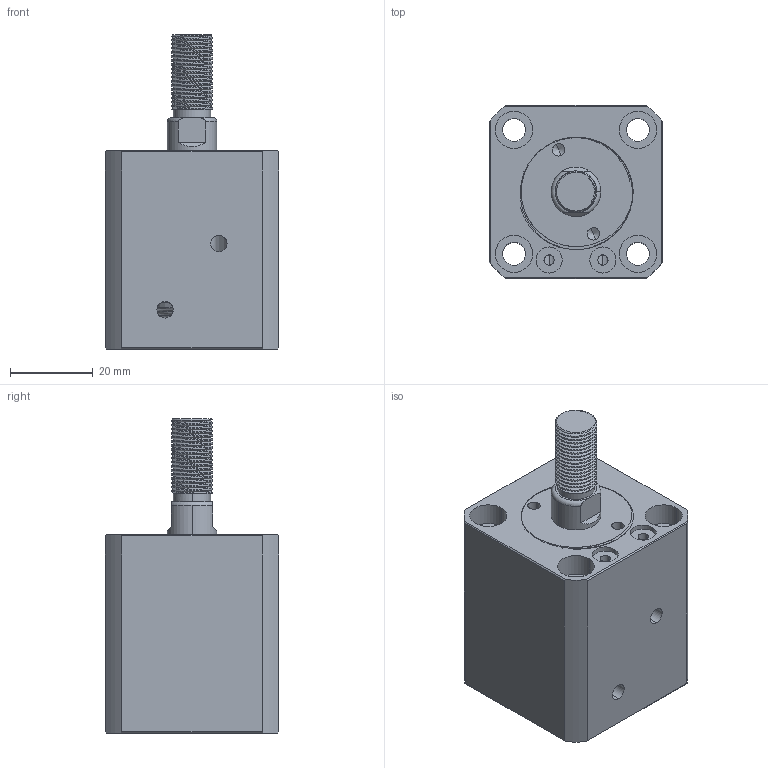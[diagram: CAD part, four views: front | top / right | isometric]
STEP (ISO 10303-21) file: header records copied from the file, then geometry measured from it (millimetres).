
FILE_DESCRIPTION (( 'STEP AP214' ), '1' );
FILE_NAME ('chtb-sdma20x5w_asm.STEP', '2018-05-18T04:05:46', ( 'Windows' ), ( 'Microsoft' ), 'SwSTEP 2.0', 'SolidWorks 2015', '' );
FILE_SCHEMA (( 'AUTOMOTIVE_DESIGN' ));
Length unit declared in the file: millimetre
Products named in the file (4): QG_3; CHTB-SDMA20X5WHSG; CHTB-SDMA20X5NBT; chtb-sdma20x5w_asm
Assembly tree (3 placements, depth 2):
  chtb-sdma20x5w_asm
    CHTB-SDMA20X5NBT
    CHTB-SDMA20X5WHSG
    QG_3
Bounding box: 42 x 42 x 76 mm (x, y, z)
Volume: 76136.1 mm3; surface area: 26852.3 mm2
Topology: 3 solids, 3 shells, 247 faces, 671 edges, 446 vertices
Faces by surface type: cylinder 144, plane 48, torus 25, bspline 23, cone 7
Entity records: 14895 total; most frequent: CARTESIAN_POINT 9018, ORIENTED_EDGE 1334, DIRECTION 1075, EDGE_CURVE 667, VERTEX_POINT 446, AXIS2_PLACEMENT_3D 441, EDGE_LOOP 285, ADVANCED_FACE 247
